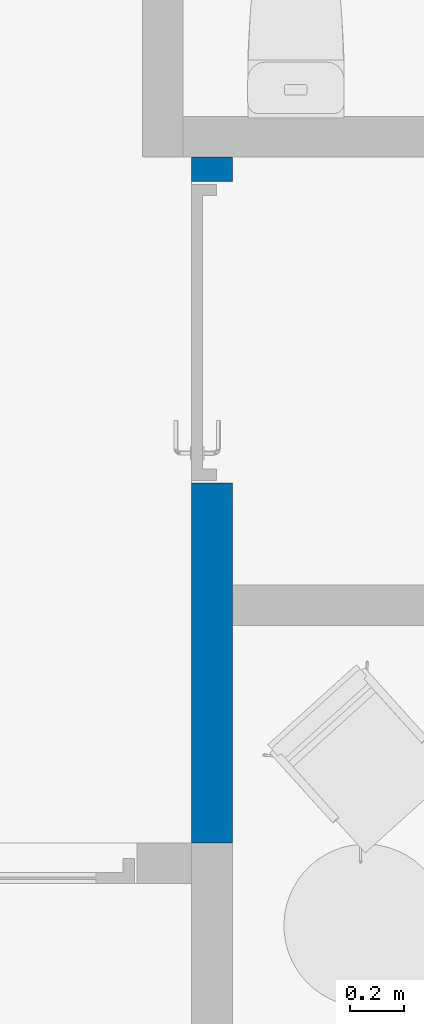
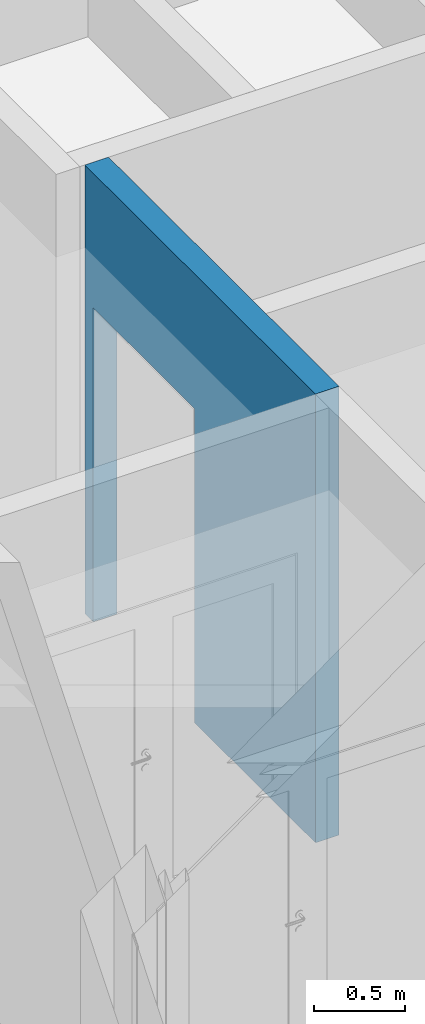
# One storey, part 5 of 58: 1 wall, 1 opening.
"""IFC2X3 building model written with IfcOpenShell, lengths in millimetres."""

from ifc_helpers import new_model, entity, si_unit, converted_unit, derived_unit, direction, frame, frame_2d, origin, place, context, subcontext, project, spatial, rectangle, extrude, material, layer, layer_set, layer_usage, type_object, element, save


model = new_model("IFC2X3")

# Units and contexts
model_context = context("Model", 3, precision=0.01, world=origin(), true_north=direction((0.7716245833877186, 0.6360782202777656)))
body_context = subcontext(model_context, "Body", "Model", "MODEL_VIEW")
ifc_project = project(units=[si_unit("LENGTHUNIT", "METRE", prefix="MILLI"), si_unit("AREAUNIT", "SQUARE_METRE"), converted_unit("PLANEANGLEUNIT", "DEGREE", entity("IfcPlaneAngleMeasure", 0.017453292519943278), si_unit("PLANEANGLEUNIT", "RADIAN"), dimensions=[0, 0, 0, 0, 0, 0, 0]), derived_unit("THERMALTRANSMITTANCEUNIT", [(si_unit("MASSUNIT", "GRAM", prefix="KILO"), 1), (si_unit("THERMODYNAMICTEMPERATUREUNIT", "KELVIN"), -1), (si_unit("TIMEUNIT", "SECOND"), -3)])], contexts=[model_context])

# Site, building, storey
site_placement = place(None, origin())
site = spatial("IfcSite", under=ifc_project, at=site_placement, Name="Default", CompositionType="ELEMENT")
building_placement = place(site_placement, origin())
building = spatial("IfcBuilding", under=site, at=building_placement, CompositionType="ELEMENT")
storey_placement = place(building_placement, frame((0.0, 0.0, 31140.0)))
storey = spatial("IfcBuildingStorey", under=building, at=storey_placement, Name="PLAN U1", CompositionType="ELEMENT", Elevation=31140.000000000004)

# Wall, opening
ifc_material_1 = material(Name="Gips")
ifc_layer_1 = layer(ifc_material_1, 12.5)
ifc_layer_2 = layer(ifc_material_1, 12.5)
ifc_material_2 = material(Name="Stender isolert")
ifc_layer_3 = layer(ifc_material_2, 100.0)
ifc_layer_4 = layer(ifc_material_1, 12.5)
ifc_layer_5 = layer(ifc_material_1, 12.5)
ifc_layer_set = layer_set([ifc_layer_1, ifc_layer_2, ifc_layer_3, ifc_layer_4, ifc_layer_5], Name="Basic Wall:242 IV01 Innervegg 150 mm")
ifc_layer_usage = layer_usage(ifc_layer_set, "AXIS2", "NEGATIVE", 75.0)
wall_type = type_object("IfcWallType", Name="Basic Wall:242 IV01 Innervegg 150 mm", PredefinedType="STANDARD", material=ifc_layer_set)
wall_placement = place(storey_placement, frame((263548.92444647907, 59240.25555007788, 0.0), z_axis=(0.0, 0.0, 1.0), x_axis=(0.0, -1.0, 0.0)))
wall = element("IfcWallStandardCase", 1, at=wall_placement, inside=storey, type_object=wall_type, material=ifc_layer_usage, Name="Basic Wall:242 IV01 Innervegg 150 mm", ObjectType="Basic Wall:242 IV01 Innervegg 150 mm", context=body_context, shape_type="SweptSolid", body=[
    extrude(rectangle(XDim=2524.99999999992, YDim=150.00000000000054, at=frame_2d((1262.49999999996, 0.0), x_axis=(-1.0, 0.0))), origin(), (0.0, 0.0, 1.0), 2999.9999999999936),
])
opening_placement = place(wall_placement, frame((1200.0, 75.0, 0.0)))
element("IfcOpeningElement", 2, at=opening_placement, cuts=wall, Name="Enfløyet:244 Innvendig AAa 11x21M - Tett:1", ObjectType="Opening", context=body_context, shape_type="SweptSolid", body=[
    extrude(rectangle(XDim=2100.0, YDim=1109.9999999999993, at=frame_2d((1049.9999999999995, 554.9999999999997), x_axis=(1.0, 0.0))), frame((0.0, 0.0, 0.0), z_axis=(0.0, -1.0, 0.0), x_axis=(0.0, 0.0, 1.0)), (0.0, 0.0, 1.0), 150.0),
])

save(model, "model.ifc")
